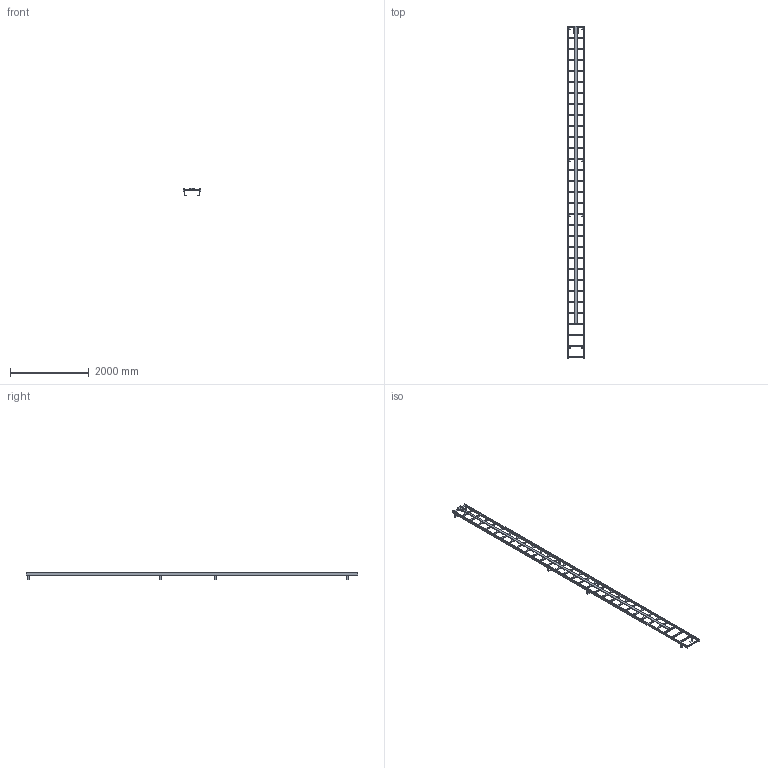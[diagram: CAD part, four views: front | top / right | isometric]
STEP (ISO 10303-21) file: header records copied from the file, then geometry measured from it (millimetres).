
FILE_DESCRIPTION((''),'2;1');
FILE_NAME('52140170','2023-09-28T11:31:15',('ged'),('HUBER SE'),'CREO PARAMETRIC BY PTC INC, 2022162','CREO PARAMETRIC BY PTC INC, 2022162','');
FILE_SCHEMA(('AUTOMOTIVE_DESIGN { 1 0 10303 214 1 1 1 1 }'));
Length unit declared in the file: millimetre
Products named in the file (1): 52140170
Bounding box: 450 x 8450 x 195 mm (x, y, z)
Volume: 45893060 mm3; surface area: 5478844 mm2
Topology: 1 solids, 1 shells, 266 faces, 838 edges, 514 vertices
Faces by surface type: plane 266
Entity records: 9687 total; most frequent: ORIENTED_EDGE 1676, CARTESIAN_POINT 1620, DIRECTION 1370, VECTOR 838, LINE 838, EDGE_CURVE 838, VERTEX_POINT 514, EDGE_LOOP 318
